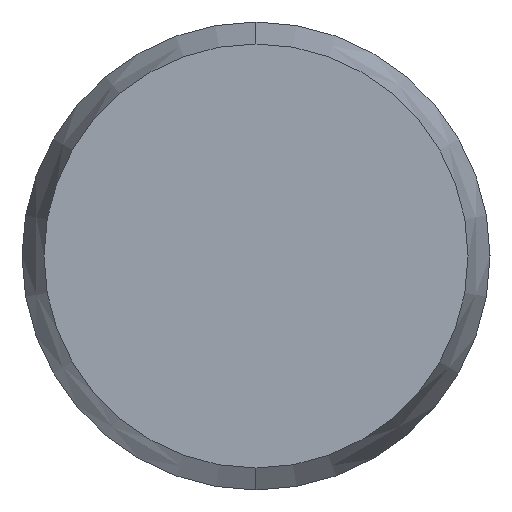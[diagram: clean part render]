
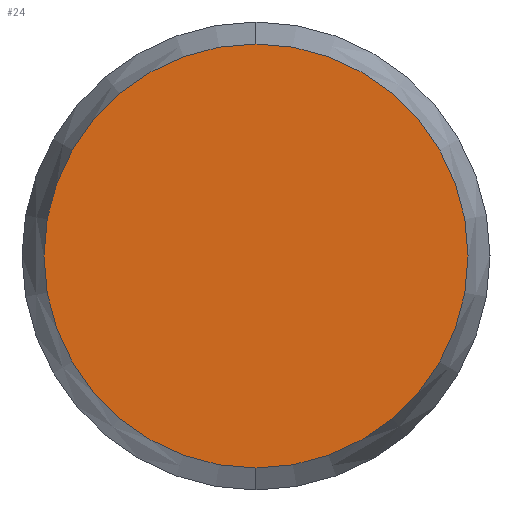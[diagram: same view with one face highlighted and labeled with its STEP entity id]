
A CAD part, left-side view. The second image highlights one B-rep face of the part: STEP entity #24.
In plain terms, the highlighted planar face has unit normal (-1, 0, 0).
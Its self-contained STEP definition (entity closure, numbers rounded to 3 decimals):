
#24 = ADVANCED_FACE ( 'NONE', ( #105 ), #103, .F. ) ;
#25 = EDGE_LOOP ( 'NONE', ( #26, #27 ) ) ;
#26 = ORIENTED_EDGE ( 'NONE', *, *, #60, .F. ) ;
#27 = ORIENTED_EDGE ( 'NONE', *, *, #40, .F. ) ;
#40 = EDGE_CURVE ( 'NONE', #59, #58, #125, .T. ) ;
#58 = VERTEX_POINT ( 'NONE', #160 ) ;
#59 = VERTEX_POINT ( 'NONE', #159 ) ;
#60 = EDGE_CURVE ( 'NONE', #58, #59, #156, .T. ) ;
#102 = DIRECTION ( 'NONE',  ( 0., 0., -1. ) ) ;
#103 = PLANE ( 'NONE',  #111 ) ;
#105 = FACE_OUTER_BOUND ( 'NONE', #25, .T. ) ;
#111 = AXIS2_PLACEMENT_3D ( 'NONE', #113, #112, #102 ) ;
#112 = DIRECTION ( 'NONE',  ( 1., 0., 0. ) ) ;
#113 = CARTESIAN_POINT ( 'NONE',  ( -7., 0., 0. ) ) ;
#125 = CIRCLE ( 'NONE', #135, 1.812 ) ;
#132 = DIRECTION ( 'NONE',  ( 0., 0., -1. ) ) ;
#133 = DIRECTION ( 'NONE',  ( 1., 0., 0. ) ) ;
#134 = CARTESIAN_POINT ( 'NONE',  ( -7., 0., 0. ) ) ;
#135 = AXIS2_PLACEMENT_3D ( 'NONE', #134, #133, #132 ) ;
#145 = AXIS2_PLACEMENT_3D ( 'NONE', #147, #149, #148 ) ;
#147 = CARTESIAN_POINT ( 'NONE',  ( -7., 0., 0. ) ) ;
#148 = DIRECTION ( 'NONE',  ( 0., 0., -1. ) ) ;
#149 = DIRECTION ( 'NONE',  ( 1., 0., 0. ) ) ;
#156 = CIRCLE ( 'NONE', #145, 1.812 ) ;
#159 = CARTESIAN_POINT ( 'NONE',  ( -7., 0., -1.812 ) ) ;
#160 = CARTESIAN_POINT ( 'NONE',  ( -7., 0., 1.812 ) ) ;
